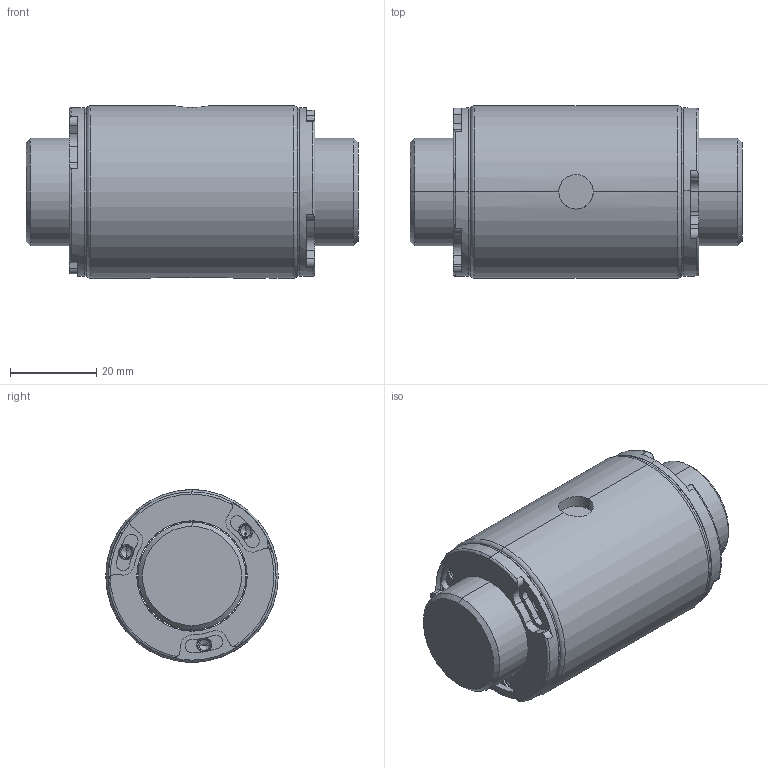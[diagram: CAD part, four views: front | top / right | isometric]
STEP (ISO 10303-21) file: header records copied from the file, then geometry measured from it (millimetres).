
FILE_DESCRIPTION (( 'STEP AP203' ), '1' );
FILE_NAME ('SCHR02510C1-C.STEP', '2020-06-17T08:49:44', ( '' ), ( '' ), 'SwSTEP 2.0', 'SolidWorks 2013', '' );
FILE_SCHEMA (( 'CONFIG_CONTROL_DESIGN' ));
Length unit declared in the file: millimetre
Products named in the file (1): SCHR02510C1-C
Bounding box: 77 x 40 x 40 mm (x, y, z)
Volume: 75532.8 mm3; surface area: 21330.8 mm2
Topology: 2 solids, 2 shells, 223 faces, 568 edges, 355 vertices
Faces by surface type: cylinder 119, plane 64, cone 28, torus 12
Entity records: 7324 total; most frequent: CARTESIAN_POINT 1689, DIRECTION 1291, ORIENTED_EDGE 1112, EDGE_CURVE 556, AXIS2_PLACEMENT_3D 545, VERTEX_POINT 355, CIRCLE 321, EDGE_LOOP 245
